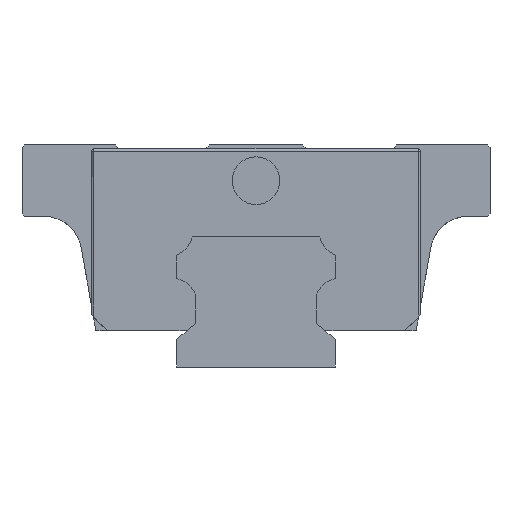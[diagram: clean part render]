
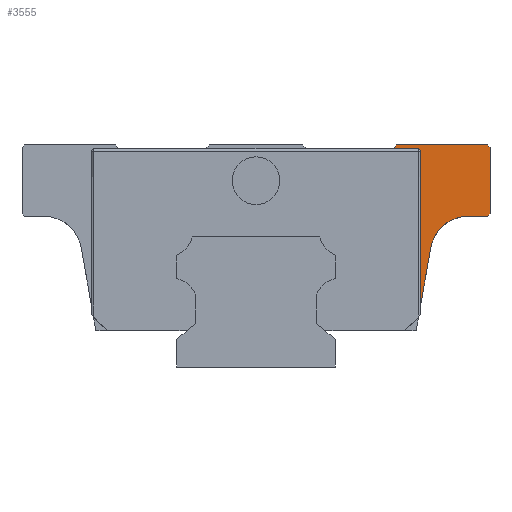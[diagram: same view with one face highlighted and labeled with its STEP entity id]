
A CAD part, left-side view. The second image highlights one B-rep face of the part: STEP entity #3555.
In plain terms, the highlighted planar face has unit normal (-1, 0, 0).
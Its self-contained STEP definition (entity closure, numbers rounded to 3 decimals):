
#119 = VERTEX_POINT ( 'NONE', #1254 ) ;
#263 = VERTEX_POINT ( 'NONE', #2802 ) ;
#284 = DIRECTION ( 'NONE',  ( 0., 0.707, 0.707 ) ) ;
#586 = VECTOR ( 'NONE', #1327, 1000. ) ;
#660 = DIRECTION ( 'NONE',  ( 0., 0., 1. ) ) ;
#703 = LINE ( 'NONE', #3080, #2168 ) ;
#798 = VERTEX_POINT ( 'NONE', #1334 ) ;
#1124 = EDGE_CURVE ( 'NONE', #2636, #119, #7534, .T. ) ;
#1135 = VECTOR ( 'NONE', #4737, 1000. ) ;
#1174 = DIRECTION ( 'NONE',  ( 0., -0.174, 0.985 ) ) ;
#1193 = DIRECTION ( 'NONE',  ( 1., 0., 0. ) ) ;
#1254 = CARTESIAN_POINT ( 'NONE',  ( -23.35, -22.036, 15.075 ) ) ;
#1327 = DIRECTION ( 'NONE',  ( 0., 0.643, -0.766 ) ) ;
#1332 = AXIS2_PLACEMENT_3D ( 'NONE', #3612, #1193, #660 ) ;
#1334 = CARTESIAN_POINT ( 'NONE',  ( -23.35, -20.75, 27.205 ) ) ;
#1343 = EDGE_CURVE ( 'NONE', #5364, #798, #4552, .T. ) ;
#1415 = VERTEX_POINT ( 'NONE', #2006 ) ;
#1419 = LINE ( 'NONE', #2030, #3405 ) ;
#1447 = CARTESIAN_POINT ( 'NONE',  ( -23.35, -22.728, 19. ) ) ;
#1471 = AXIS2_PLACEMENT_3D ( 'NONE', #3428, #5179, #5637 ) ;
#1523 = CARTESIAN_POINT ( 'NONE',  ( -23.35, -29.5, 19.295 ) ) ;
#1544 = ORIENTED_EDGE ( 'NONE', *, *, #1343, .T. ) ;
#1636 = DIRECTION ( 'NONE',  ( 0., 1., 0. ) ) ;
#1655 = VECTOR ( 'NONE', #6712, 1000. ) ;
#1739 = LINE ( 'NONE', #1822, #1135 ) ;
#1808 = VERTEX_POINT ( 'NONE', #7418 ) ;
#1822 = CARTESIAN_POINT ( 'NONE',  ( -23.35, -20.75, 6.6 ) ) ;
#1906 = EDGE_CURVE ( 'NONE', #5364, #1415, #4052, .T. ) ;
#1962 = EDGE_CURVE ( 'NONE', #1808, #2767, #4410, .T. ) ;
#2006 = CARTESIAN_POINT ( 'NONE',  ( -23.35, -17.28, 27.5 ) ) ;
#2030 = CARTESIAN_POINT ( 'NONE',  ( -23.35, -29.5, 28. ) ) ;
#2168 = VECTOR ( 'NONE', #6022, 1000. ) ;
#2188 = ORIENTED_EDGE ( 'NONE', *, *, #5077, .T. ) ;
#2315 = FACE_OUTER_BOUND ( 'NONE', #5492, .T. ) ;
#2327 = ORIENTED_EDGE ( 'NONE', *, *, #2573, .T. ) ;
#2568 = DIRECTION ( 'NONE',  ( 0., -1., 0. ) ) ;
#2573 = EDGE_CURVE ( 'NONE', #119, #4911, #4276, .T. ) ;
#2636 = VERTEX_POINT ( 'NONE', #7168 ) ;
#2767 = VERTEX_POINT ( 'NONE', #1523 ) ;
#2802 = CARTESIAN_POINT ( 'NONE',  ( -23.35, -17.7, 28. ) ) ;
#2862 = CARTESIAN_POINT ( 'NONE',  ( -23.35, -20.189, 4.6 ) ) ;
#3008 = ORIENTED_EDGE ( 'NONE', *, *, #4671, .T. ) ;
#3080 = CARTESIAN_POINT ( 'NONE',  ( -23.35, -29.5, 19. ) ) ;
#3297 = DIRECTION ( 'NONE',  ( 0., 1., 0. ) ) ;
#3405 = VECTOR ( 'NONE', #3297, 1000. ) ;
#3418 = ORIENTED_EDGE ( 'NONE', *, *, #5515, .T. ) ;
#3428 = CARTESIAN_POINT ( 'NONE',  ( -23.35, -8.741, 4.6 ) ) ;
#3487 = ORIENTED_EDGE ( 'NONE', *, *, #1906, .F. ) ;
#3522 = CARTESIAN_POINT ( 'NONE',  ( -23.35, -20.542, 27.5 ) ) ;
#3555 = ADVANCED_FACE ( 'NONE', ( #2315 ), #4649, .T. ) ;
#3575 = AXIS2_PLACEMENT_3D ( 'NONE', #4889, #6067, #7262 ) ;
#3612 = CARTESIAN_POINT ( 'NONE',  ( -23.35, -26.714, 14.25 ) ) ;
#3651 = VECTOR ( 'NONE', #284, 1000. ) ;
#3799 = CARTESIAN_POINT ( 'NONE',  ( -23.35, -11.773, 1.568 ) ) ;
#4052 = LINE ( 'NONE', #3522, #5692 ) ;
#4077 = EDGE_CURVE ( 'NONE', #2767, #6439, #703, .T. ) ;
#4276 = CIRCLE ( 'NONE', #1332, 4.75 ) ;
#4280 = CARTESIAN_POINT ( 'NONE',  ( -23.35, -17.7, 28. ) ) ;
#4410 = LINE ( 'NONE', #3799, #1655 ) ;
#4488 = VERTEX_POINT ( 'NONE', #7550 ) ;
#4552 = CIRCLE ( 'NONE', #3575, 0.295 ) ;
#4649 = PLANE ( 'NONE',  #1471 ) ;
#4671 = EDGE_CURVE ( 'NONE', #4911, #1808, #7268, .T. ) ;
#4675 = ORIENTED_EDGE ( 'NONE', *, *, #7023, .F. ) ;
#4737 = DIRECTION ( 'NONE',  ( 0., 0., 1. ) ) ;
#4771 = VECTOR ( 'NONE', #1174, 1000. ) ;
#4874 = ORIENTED_EDGE ( 'NONE', *, *, #5020, .T. ) ;
#4889 = CARTESIAN_POINT ( 'NONE',  ( -23.35, -20.455, 27.205 ) ) ;
#4911 = VERTEX_POINT ( 'NONE', #7376 ) ;
#5020 = EDGE_CURVE ( 'NONE', #263, #1415, #5312, .T. ) ;
#5066 = LINE ( 'NONE', #5643, #3651 ) ;
#5077 = EDGE_CURVE ( 'NONE', #6439, #4488, #5066, .T. ) ;
#5179 = DIRECTION ( 'NONE',  ( -1., 0., 0. ) ) ;
#5312 = LINE ( 'NONE', #4280, #586 ) ;
#5364 = VERTEX_POINT ( 'NONE', #6494 ) ;
#5492 = EDGE_LOOP ( 'NONE', ( #4874, #3487, #1544, #4675, #5516, #2327, #3008, #5849, #6560, #2188, #3418 ) ) ;
#5515 = EDGE_CURVE ( 'NONE', #4488, #263, #1419, .T. ) ;
#5516 = ORIENTED_EDGE ( 'NONE', *, *, #1124, .T. ) ;
#5637 = DIRECTION ( 'NONE',  ( 0., 0., 1. ) ) ;
#5643 = CARTESIAN_POINT ( 'NONE',  ( -23.35, -30.673, 26.532 ) ) ;
#5692 = VECTOR ( 'NONE', #1636, 1000. ) ;
#5849 = ORIENTED_EDGE ( 'NONE', *, *, #1962, .T. ) ;
#6022 = DIRECTION ( 'NONE',  ( 0., 0., 1. ) ) ;
#6067 = DIRECTION ( 'NONE',  ( 1., 0., 0. ) ) ;
#6429 = VECTOR ( 'NONE', #2568, 1000. ) ;
#6439 = VERTEX_POINT ( 'NONE', #7241 ) ;
#6494 = CARTESIAN_POINT ( 'NONE',  ( -23.35, -20.455, 27.5 ) ) ;
#6560 = ORIENTED_EDGE ( 'NONE', *, *, #4077, .T. ) ;
#6712 = DIRECTION ( 'NONE',  ( 0., -0.707, 0.707 ) ) ;
#7023 = EDGE_CURVE ( 'NONE', #2636, #798, #1739, .T. ) ;
#7168 = CARTESIAN_POINT ( 'NONE',  ( -23.35, -20.75, 7.78 ) ) ;
#7241 = CARTESIAN_POINT ( 'NONE',  ( -23.35, -29.5, 27.705 ) ) ;
#7262 = DIRECTION ( 'NONE',  ( 0., 0., 1. ) ) ;
#7268 = LINE ( 'NONE', #1447, #6429 ) ;
#7376 = CARTESIAN_POINT ( 'NONE',  ( -23.35, -26.714, 19. ) ) ;
#7418 = CARTESIAN_POINT ( 'NONE',  ( -23.35, -29.205, 19. ) ) ;
#7534 = LINE ( 'NONE', #2862, #4771 ) ;
#7550 = CARTESIAN_POINT ( 'NONE',  ( -23.35, -29.205, 28. ) ) ;
